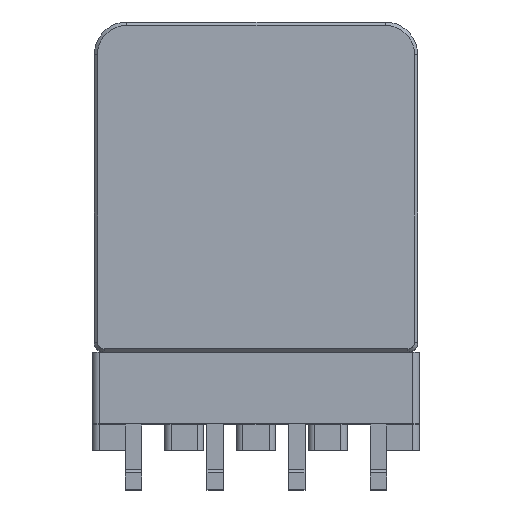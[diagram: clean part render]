
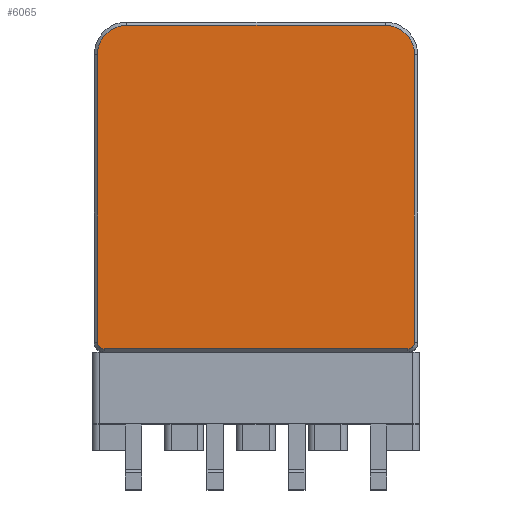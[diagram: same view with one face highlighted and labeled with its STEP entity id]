
A CAD part, top view. The second image highlights one B-rep face of the part: STEP entity #6065.
In plain terms, the highlighted planar face has unit normal (0, 0, 1) as drawn and (0, 0, -1) by its records, which use the part's own axes.
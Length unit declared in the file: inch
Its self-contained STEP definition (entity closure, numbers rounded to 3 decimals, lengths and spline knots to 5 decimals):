
#89 = CARTESIAN_POINT ( 'NONE',  ( -0.18307, -0.19488, 0. ) ) ;
#314 = CARTESIAN_POINT ( 'NONE',  ( 0.18307, -0.19488, 0. ) ) ;
#393 = VERTEX_POINT ( 'NONE', #9227 ) ;
#525 = EDGE_LOOP ( 'NONE', ( #2286, #631, #9502, #9776, #8027, #7144, #4224, #1849 ) ) ;
#567 = VERTEX_POINT ( 'NONE', #89 ) ;
#596 = AXIS2_PLACEMENT_3D ( 'NONE', #7833, #6262, #5453 ) ;
#607 = VERTEX_POINT ( 'NONE', #314 ) ;
#631 = ORIENTED_EDGE ( 'NONE', *, *, #5182, .T. ) ;
#691 = AXIS2_PLACEMENT_3D ( 'NONE', #7744, #1675, #5556 ) ;
#902 = CIRCLE ( 'NONE', #6844, 0.00787 ) ;
#963 = DIRECTION ( 'NONE',  ( 1., 0., 0. ) ) ;
#1084 = CARTESIAN_POINT ( 'NONE',  ( -0.19094, -0.18701, 0. ) ) ;
#1253 = DIRECTION ( 'NONE',  ( 0., 0., -1. ) ) ;
#1581 = LINE ( 'NONE', #6321, #7351 ) ;
#1675 = DIRECTION ( 'NONE',  ( 0., 0., -1. ) ) ;
#1802 = CARTESIAN_POINT ( 'NONE',  ( 0.15551, 0.19488, 0. ) ) ;
#1849 = ORIENTED_EDGE ( 'NONE', *, *, #2887, .T. ) ;
#1873 = CARTESIAN_POINT ( 'NONE',  ( 0., 0.19488, 0. ) ) ;
#1880 = EDGE_CURVE ( 'NONE', #6519, #393, #9139, .T. ) ;
#2090 = VECTOR ( 'NONE', #8225, 39.37008 ) ;
#2103 = CARTESIAN_POINT ( 'NONE',  ( 0.19094, -0.18701, 0. ) ) ;
#2211 = VECTOR ( 'NONE', #5401, 39.37008 ) ;
#2218 = CARTESIAN_POINT ( 'NONE',  ( -0.19094, 0., 0. ) ) ;
#2286 = ORIENTED_EDGE ( 'NONE', *, *, #5167, .T. ) ;
#2481 = LINE ( 'NONE', #5498, #2211 ) ;
#2526 = DIRECTION ( 'NONE',  ( 1., 0., 0. ) ) ;
#2670 = AXIS2_PLACEMENT_3D ( 'NONE', #8299, #5964, #5802 ) ;
#2887 = EDGE_CURVE ( 'NONE', #6063, #3228, #8726, .T. ) ;
#2950 = CIRCLE ( 'NONE', #691, 0.03543 ) ;
#3228 = VERTEX_POINT ( 'NONE', #1802 ) ;
#3727 = AXIS2_PLACEMENT_3D ( 'NONE', #7266, #1253, #6614 ) ;
#4224 = ORIENTED_EDGE ( 'NONE', *, *, #8894, .T. ) ;
#4835 = EDGE_CURVE ( 'NONE', #607, #567, #1581, .T. ) ;
#5167 = EDGE_CURVE ( 'NONE', #3228, #7595, #7818, .T. ) ;
#5182 = EDGE_CURVE ( 'NONE', #7595, #8703, #2481, .T. ) ;
#5401 = DIRECTION ( 'NONE',  ( 0., -1., 0. ) ) ;
#5453 = DIRECTION ( 'NONE',  ( 1., 0., 0. ) ) ;
#5498 = CARTESIAN_POINT ( 'NONE',  ( 0.19094, 0., 0. ) ) ;
#5556 = DIRECTION ( 'NONE',  ( 1., 0., 0. ) ) ;
#5623 = CARTESIAN_POINT ( 'NONE',  ( 0.19094, 0.15945, 0. ) ) ;
#5802 = DIRECTION ( 'NONE',  ( 1., 0., 0. ) ) ;
#5964 = DIRECTION ( 'NONE',  ( 0., 0., 1. ) ) ;
#6063 = VERTEX_POINT ( 'NONE', #8885 ) ;
#6065 = ADVANCED_FACE ( 'NONE', ( #8195 ), #7580, .F. ) ;
#6201 = EDGE_CURVE ( 'NONE', #567, #6519, #902, .T. ) ;
#6262 = DIRECTION ( 'NONE',  ( 0., 0., -1. ) ) ;
#6321 = CARTESIAN_POINT ( 'NONE',  ( 0., -0.19488, 0. ) ) ;
#6452 = DIRECTION ( 'NONE',  ( 0., 0., -1. ) ) ;
#6519 = VERTEX_POINT ( 'NONE', #1084 ) ;
#6614 = DIRECTION ( 'NONE',  ( 1., 0., 0. ) ) ;
#6808 = CIRCLE ( 'NONE', #3727, 0.00787 ) ;
#6844 = AXIS2_PLACEMENT_3D ( 'NONE', #7161, #6452, #2526 ) ;
#7144 = ORIENTED_EDGE ( 'NONE', *, *, #1880, .T. ) ;
#7161 = CARTESIAN_POINT ( 'NONE',  ( -0.18307, -0.18701, 0. ) ) ;
#7266 = CARTESIAN_POINT ( 'NONE',  ( 0.18307, -0.18701, 0. ) ) ;
#7351 = VECTOR ( 'NONE', #9408, 39.37008 ) ;
#7580 = PLANE ( 'NONE',  #2670 ) ;
#7595 = VERTEX_POINT ( 'NONE', #5623 ) ;
#7744 = CARTESIAN_POINT ( 'NONE',  ( -0.15551, 0.15945, 0. ) ) ;
#7818 = CIRCLE ( 'NONE', #596, 0.03543 ) ;
#7833 = CARTESIAN_POINT ( 'NONE',  ( 0.15551, 0.15945, 0. ) ) ;
#8027 = ORIENTED_EDGE ( 'NONE', *, *, #6201, .T. ) ;
#8195 = FACE_OUTER_BOUND ( 'NONE', #525, .T. ) ;
#8225 = DIRECTION ( 'NONE',  ( 0., 1., 0. ) ) ;
#8299 = CARTESIAN_POINT ( 'NONE',  ( 0., 0., 0. ) ) ;
#8703 = VERTEX_POINT ( 'NONE', #2103 ) ;
#8726 = LINE ( 'NONE', #1873, #8906 ) ;
#8885 = CARTESIAN_POINT ( 'NONE',  ( -0.15551, 0.19488, 0. ) ) ;
#8894 = EDGE_CURVE ( 'NONE', #393, #6063, #2950, .T. ) ;
#8906 = VECTOR ( 'NONE', #963, 39.37008 ) ;
#9139 = LINE ( 'NONE', #2218, #2090 ) ;
#9227 = CARTESIAN_POINT ( 'NONE',  ( -0.19094, 0.15945, 0. ) ) ;
#9234 = EDGE_CURVE ( 'NONE', #8703, #607, #6808, .T. ) ;
#9408 = DIRECTION ( 'NONE',  ( -1., 0., 0. ) ) ;
#9502 = ORIENTED_EDGE ( 'NONE', *, *, #9234, .T. ) ;
#9776 = ORIENTED_EDGE ( 'NONE', *, *, #4835, .T. ) ;
